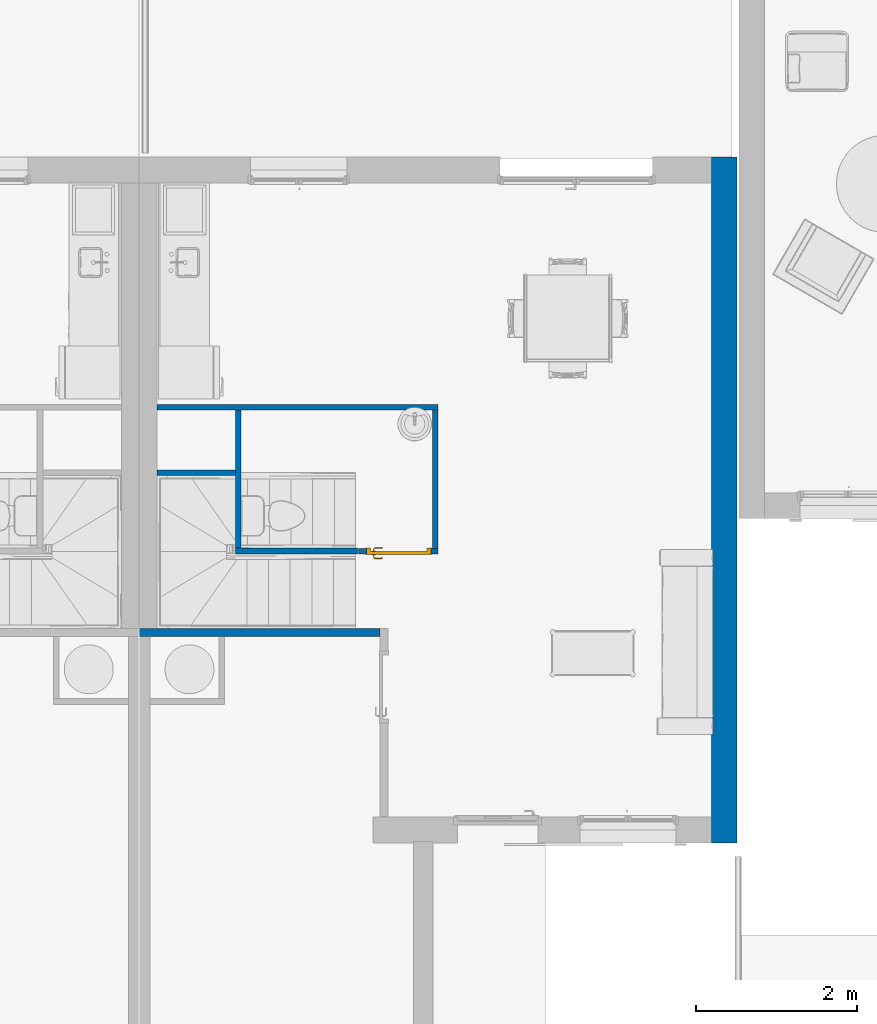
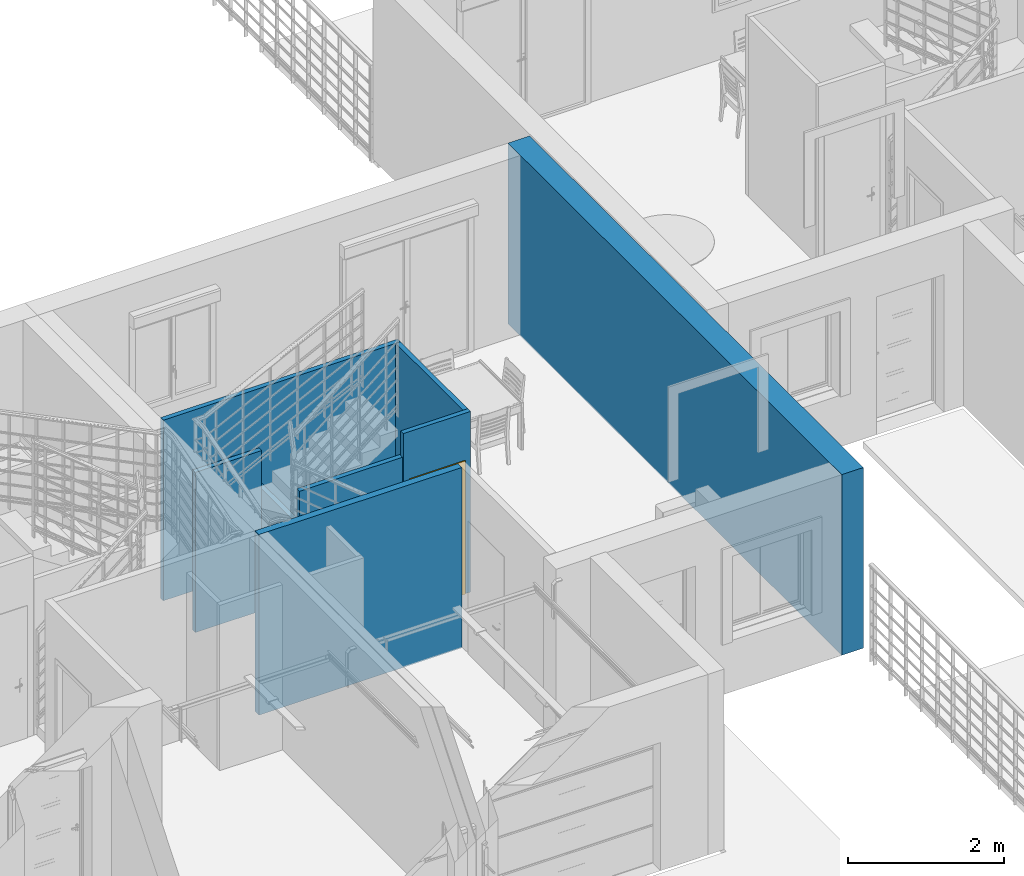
# One storey, part 11 of 30: 8 walls, 1 door, 1 opening.
"""IFC2X3 building model written with IfcOpenShell, lengths in metres."""

from ifc_helpers import new_model, entity, si_unit, converted_unit, derived_unit, direction, frame, frame_2d, origin, place, context, subcontext, project, spatial, rectangle, extrude, faceted_brep, source, transform, mapped, material, material_list, layer, layer_set, layer_usage, type_object, type_shapes, element, fill, save


model = new_model("IFC2X3")

# Units and contexts
model_context = context("Model", 3, precision=1e-05, world=origin(), true_north=direction((6.12303176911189e-17, 1.0)))
body_context = subcontext(model_context, "Body", "Model", "MODEL_VIEW")
ifc_project = project(units=[si_unit("LENGTHUNIT", "METRE"), si_unit("AREAUNIT", "SQUARE_METRE"), si_unit("VOLUMEUNIT", "CUBIC_METRE"), converted_unit("PLANEANGLEUNIT", "DEGREE", entity("IfcRatioMeasure", 0.0174532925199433), si_unit("PLANEANGLEUNIT", "RADIAN"), dimensions=[0, 0, 0, 0, 0, 0, 0]), si_unit("MASSUNIT", "GRAM", prefix="KILO"), derived_unit("MASSDENSITYUNIT", [(si_unit("MASSUNIT", "GRAM", prefix="KILO"), 1), (si_unit("LENGTHUNIT", "METRE"), -3)]), si_unit("TIMEUNIT", "SECOND"), si_unit("FREQUENCYUNIT", "HERTZ"), si_unit("THERMODYNAMICTEMPERATUREUNIT", "DEGREE_CELSIUS"), derived_unit("THERMALTRANSMITTANCEUNIT", [(si_unit("MASSUNIT", "GRAM", prefix="KILO"), 1), (si_unit("THERMODYNAMICTEMPERATUREUNIT", "KELVIN"), -1), (si_unit("TIMEUNIT", "SECOND"), -3)]), derived_unit("VOLUMETRICFLOWRATEUNIT", [(si_unit("LENGTHUNIT", "METRE"), 3), (si_unit("TIMEUNIT", "SECOND"), -1)]), si_unit("ELECTRICCURRENTUNIT", "AMPERE"), si_unit("ELECTRICVOLTAGEUNIT", "VOLT"), si_unit("POWERUNIT", "WATT"), si_unit("FORCEUNIT", "NEWTON", prefix="KILO"), si_unit("ILLUMINANCEUNIT", "LUX"), si_unit("LUMINOUSFLUXUNIT", "LUMEN"), si_unit("LUMINOUSINTENSITYUNIT", "CANDELA"), derived_unit("USERDEFINED", [(si_unit("MASSUNIT", "GRAM", prefix="KILO"), -1), (si_unit("LENGTHUNIT", "METRE"), -2), (si_unit("TIMEUNIT", "SECOND"), 3), (si_unit("LUMINOUSFLUXUNIT", "LUMEN"), 1)]), derived_unit("LINEARVELOCITYUNIT", [(si_unit("LENGTHUNIT", "METRE"), 1), (si_unit("TIMEUNIT", "SECOND"), -1)]), si_unit("PRESSUREUNIT", "PASCAL"), derived_unit("USERDEFINED", [(si_unit("LENGTHUNIT", "METRE"), -2), (si_unit("MASSUNIT", "GRAM", prefix="KILO"), 1), (si_unit("TIMEUNIT", "SECOND"), -2)])], contexts=[model_context])

# Site, building, storey
site_placement = place(None, origin())
site = spatial("IfcSite", under=ifc_project, at=site_placement, Name="Surface", CompositionType="ELEMENT")
building_placement = place(site_placement, origin())
building = spatial("IfcBuilding", under=site, at=building_placement, CompositionType="ELEMENT")
storey_placement = place(building_placement, origin())
storey = spatial("IfcBuildingStorey", under=building, at=storey_placement, Name="Plan des fondations  Maisons 1 et 2", CompositionType="ELEMENT", Elevation=0.0)

# Walls
ifc_material_1 = material(Name="Enduit blanc cassé2")
ifc_layer_1 = layer(ifc_material_1, 0.02)
ifc_material_2 = material(Name="Parpaing")
ifc_layer_2 = layer(ifc_material_2, 0.2)
ifc_material_3 = material(Name="Isolant")
ifc_layer_3 = layer(ifc_material_3, 0.1)
ifc_layer_set_1 = layer_set([ifc_layer_1, ifc_layer_2, ifc_layer_3], Name="Mur de base:Ext. Parpaing 20 + Isolant 10 enduit blanc cassé")
ifc_layer_usage_1 = layer_usage(ifc_layer_set_1, "AXIS2", "POSITIVE", -0.16)
wall_type_1 = type_object("IfcWallType", Name="Mur de base:Ext. Parpaing 20 + Isolant 10 enduit blanc cassé", PredefinedType="STANDARD", material=ifc_layer_set_1)
wall_1_placement = place(storey_placement, frame((76.122889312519, 79.8877566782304, 0.0), z_axis=(0.0, 0.0, 1.0), x_axis=(0.0, 1.0, 0.0)))
element("IfcWallStandardCase", 1, at=wall_1_placement, inside=storey, type_object=wall_type_1, material=ifc_layer_usage_1, Name="Mur de base:Ext. Parpaing 20 + Isolant 10 enduit blanc cassé", ObjectType="Mur de base:Ext. Parpaing 20 + Isolant 10 enduit blanc cassé", context=body_context, shape_type="SweptSolid", body=[
    extrude(rectangle(XDim=8.54, YDim=0.319999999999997, at=frame_2d((4.27, 9.85322934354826e-16), x_axis=(-1.0, 0.0))), origin(), (0.0, 0.0, 1.0), 2.82),
])
ifc_material_4 = material(Name="Peinture - Blanc")
ifc_layer_4 = layer(ifc_material_4, 0.1)
ifc_layer_set_2 = layer_set([ifc_layer_4], Name="Mur de base:Int.  Platre 100 mm en blanc 2")
ifc_layer_usage_2 = layer_usage(ifc_layer_set_2, "AXIS2", "NEGATIVE", 0.05)
wall_type_2 = type_object("IfcWallType", Name="Mur de base:Int.  Platre 100 mm en blanc 2", PredefinedType="STANDARD", material=ifc_layer_set_2)
wall_2_placement = place(storey_placement, frame((71.8346263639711, 82.5077566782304, 0.0), z_axis=(0.0, 0.0, 1.0), x_axis=(-1.0, 0.0, 0.0)))
element("IfcWallStandardCase", 2, at=wall_2_placement, inside=storey, type_object=wall_type_2, material=ifc_layer_usage_2, Name="Mur de base:Int.  Platre 100 mm en blanc 2", ObjectType="Mur de base:Int.  Platre 100 mm en blanc 2", context=body_context, shape_type="SweptSolid", body=[
    extrude(rectangle(XDim=2.99500000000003, YDim=0.100000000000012, at=frame_2d((1.49750000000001, 0.0), x_axis=(-1.0, 0.0))), origin(), (0.0, 0.0, 1.0), 2.82),
])
ifc_layer_5 = layer(ifc_material_4, 0.07)
ifc_layer_set_3 = layer_set([ifc_layer_5], Name="Mur de base:Int.  Platre 70 mm en blanc")
ifc_layer_usage_3 = layer_usage(ifc_layer_set_3, "AXIS2", "NEGATIVE", 0.035)
wall_type_3 = type_object("IfcWallType", Name="Mur de base:Int.  Platre 70 mm en blanc", PredefinedType="STANDARD", material=ifc_layer_set_3)
wall_3_placement = place(storey_placement, frame((69.0546263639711, 85.3127566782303, 0.0)))
element("IfcWallStandardCase", 3, at=wall_3_placement, inside=storey, type_object=wall_type_3, material=ifc_layer_usage_3, Name="Mur de base:Int.  Platre 70 mm en blanc", ObjectType="Mur de base:Int.  Platre 70 mm en blanc", context=body_context, shape_type="SweptSolid", body=[
    extrude(rectangle(XDim=3.50211659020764, YDim=0.0699999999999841, at=frame_2d((1.75105829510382, 7.45931094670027e-16), x_axis=(-1.0, 0.0))), origin(), (0.0, 0.0, 1.0), 2.82),
])
ifc_layer_usage_4 = layer_usage(ifc_layer_set_3, "AXIS2", "NEGATIVE", 0.035)
wall_4_placement = place(storey_placement, frame((72.5217429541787, 83.5546279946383, 0.0), z_axis=(0.0, 0.0, 1.0), x_axis=(0.0, 1.0, 0.0)))
element("IfcWallStandardCase", 4, at=wall_4_placement, inside=storey, type_object=wall_type_3, material=ifc_layer_usage_4, Name="Mur de base:Int.  Platre 70 mm en blanc", ObjectType="Mur de base:Int.  Platre 70 mm en blanc", context=body_context, shape_type="SweptSolid", body=[
    extrude(rectangle(XDim=1.72312868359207, YDim=0.0700000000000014, at=frame_2d((0.861564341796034, 0.0), x_axis=(-1.0, 0.0))), origin(), (0.0, 0.0, 1.0), 2.82),
])
ifc_layer_usage_5 = layer_usage(ifc_layer_set_3, "AXIS2", "NEGATIVE", 0.035)
wall_5_placement = place(storey_placement, frame((70.0346263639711, 83.5227566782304, 0.0)))
element("IfcWallStandardCase", 5, at=wall_5_placement, inside=storey, type_object=wall_type_3, material=ifc_layer_usage_5, Name="Mur de base:Int.  Platre 70 mm en blanc", ObjectType="Mur de base:Int.  Platre 70 mm en blanc", context=body_context, shape_type="SweptSolid", body=[
    extrude(rectangle(XDim=1.52171659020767, YDim=0.0699999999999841, at=frame_2d((0.760858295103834, 3.60128593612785e-15), x_axis=(-1.0, 0.0))), origin(), (0.0, 0.0, 1.0), 2.45350535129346),
])
ifc_layer_usage_6 = layer_usage(ifc_layer_set_3, "AXIS2", "NEGATIVE", 0.035)
wall_6_placement = place(storey_placement, frame((70.0696263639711, 83.5577566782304, 0.0), z_axis=(0.0, 0.0, 1.0), x_axis=(0.0, 1.0, 0.0)))
element("IfcWallStandardCase", 6, at=wall_6_placement, inside=storey, type_object=wall_type_3, material=ifc_layer_usage_6, Name="Mur de base:Int.  Platre 70 mm en blanc", ObjectType="Mur de base:Int.  Platre 70 mm en blanc", context=body_context, shape_type="SweptSolid", body=[
    extrude(rectangle(XDim=1.71999999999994, YDim=0.0700000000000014, at=frame_2d((0.859999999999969, 0.0), x_axis=(-1.0, 0.0))), origin(), (0.0, 0.0, 1.0), 1.9),
])

# Wall, opening, door
ifc_layer_usage_7 = layer_usage(ifc_layer_set_3, "AXIS2", "NEGATIVE", 0.035)
wall_7_placement = place(storey_placement, frame((71.5663429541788, 83.5196279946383, 0.0)))
wall_7 = element("IfcWallStandardCase", 7, at=wall_7_placement, inside=storey, type_object=wall_type_3, material=ifc_layer_usage_7, Name="Mur de base:Int.  Platre 70 mm en blanc", ObjectType="Mur de base:Int.  Platre 70 mm en blanc", context=body_context, shape_type="SweptSolid", body=[
    extrude(rectangle(XDim=0.990399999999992, YDim=0.0699999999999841, at=frame_2d((0.495199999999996, 2.43208231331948e-15), x_axis=(-1.0, 0.0))), origin(), (0.0, 0.0, 1.0), 2.82),
])
opening_placement = place(wall_7_placement, frame((0.900399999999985, 0.035000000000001, 0.0)))
opening = element("IfcOpeningElement", 8, at=opening_placement, cuts=wall_7, Name="FR_Simple (R):73 x 204 - (70):1", ObjectType="Opening", context=body_context, shape_type="SweptSolid", body=[
    extrude(rectangle(XDim=2.075, YDim=0.799999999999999, at=frame_2d((1.0375, 0.4), x_axis=(1.0, 0.0))), frame((0.0, 0.0, 0.0), z_axis=(0.0, -1.0, 0.0), x_axis=(0.0, 0.0, 1.0)), (0.0, 0.0, 1.0), 0.07),
])
ifc_material_5 = material(Name="Poignée Porte")
ifc_material_6 = material(Name="Dormants Portes")
ifc_material_7 = material(Name="Panneaux Portes")
ifc_material_list_1 = material_list([ifc_material_5, ifc_material_6, ifc_material_7])
ifc_material_list_2 = material_list([ifc_material_5, ifc_material_6, ifc_material_7])
door_style = type_object("IfcDoorStyle", Name="73 x 204 - (70)", ConstructionType="NOTDEFINED", OperationType="SINGLE_SWING_LEFT", ParameterTakesPrecedence=False, Sizeable=False, material=ifc_material_list_2)
shared_shape = source(origin(), body_context, "Body", "Brep", [
    faceted_brep([(0.100352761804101, -0.0130000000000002, 0.766003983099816), (0.11, -0.0130000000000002, 0.770000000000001), (0.11, -0.0130000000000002, 0.980000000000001), (0.100352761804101, -0.0130000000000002, 0.983996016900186), (0.0900000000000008, -0.0130000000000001, 0.985358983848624), (0.0796472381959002, -0.0130000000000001, 0.983996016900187), (0.0700000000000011, -0.0130000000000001, 0.980000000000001), (0.0700000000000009, -0.0130000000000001, 0.770000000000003), (0.0796472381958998, -0.0130000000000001, 0.766003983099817), (0.0900000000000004, -0.0130000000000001, 0.764641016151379), (0.100352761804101, -0.00800000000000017, 0.983996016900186), (0.11, -0.00800000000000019, 0.980000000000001), (0.11, -0.00800000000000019, 0.770000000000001), (0.100352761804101, -0.00800000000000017, 0.766003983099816), (0.0900000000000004, -0.00800000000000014, 0.764641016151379), (0.0796472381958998, -0.0080000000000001, 0.766003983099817), (0.0700000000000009, -0.00800000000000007, 0.770000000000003), (0.0700000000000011, -0.00800000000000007, 0.980000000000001), (0.0796472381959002, -0.0080000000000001, 0.983996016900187), (0.0900000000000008, -0.00800000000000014, 0.985358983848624)], [[[0, 1, 2, 3, 4, 5, 6, 7, 8, 9]], [[10, 11, 12, 13, 14, 15, 16, 17, 18, 19]], [[16, 15, 8, 7]], [[8, 15, 14, 9]], [[14, 13, 0, 9]], [[13, 12, 1, 0]], [[2, 1, 12, 11]], [[11, 10, 3, 2]], [[3, 10, 19, 4]], [[19, 18, 5, 4]], [[18, 17, 6, 5]], [[7, 6, 17, 16]]]),
    faceted_brep([(0.100352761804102, 0.0319999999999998, 0.766003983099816), (0.110000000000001, 0.0319999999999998, 0.770000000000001), (0.11, 0.0319999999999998, 0.980000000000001), (0.100352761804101, 0.0319999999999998, 0.983996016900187), (0.0900000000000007, 0.0319999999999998, 0.985358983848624), (0.0796472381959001, 0.0319999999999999, 0.983996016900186), (0.0700000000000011, 0.0319999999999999, 0.980000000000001), (0.0700000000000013, 0.0319999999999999, 0.770000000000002), (0.0796472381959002, 0.0319999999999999, 0.766003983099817), (0.0900000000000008, 0.0319999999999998, 0.764641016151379), (0.100352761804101, 0.0369999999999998, 0.983996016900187), (0.11, 0.0369999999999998, 0.980000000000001), (0.110000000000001, 0.0369999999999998, 0.770000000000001), (0.100352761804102, 0.0369999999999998, 0.766003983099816), (0.0900000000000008, 0.0369999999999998, 0.764641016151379), (0.0796472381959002, 0.0369999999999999, 0.766003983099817), (0.0700000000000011, 0.0369999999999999, 0.770000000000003), (0.0700000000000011, 0.0369999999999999, 0.980000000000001), (0.0796472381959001, 0.0369999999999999, 0.983996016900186), (0.0900000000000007, 0.0369999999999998, 0.985358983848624)], [[[0, 1, 2, 3, 4, 5, 6, 7, 8, 9]], [[10, 11, 12, 13, 14, 15, 16, 17, 18, 19]], [[11, 10, 3, 2]], [[3, 10, 19, 4]], [[19, 18, 5, 4]], [[18, 17, 6, 5]], [[7, 6, 17, 16]], [[16, 15, 8, 7]], [[8, 15, 14, 9]], [[14, 13, 0, 9]], [[13, 12, 1, 0]], [[2, 1, 12, 11]]]),
    faceted_brep([(0.0879747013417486, -0.0130000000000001, 0.907780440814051), (0.0920252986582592, -0.0130000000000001, 0.907780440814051), (0.0960000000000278, -0.0130000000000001, 0.906999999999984), (0.0960000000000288, -0.0130000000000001, 0.893000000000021), (0.0920252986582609, -0.0130000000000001, 0.89221955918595), (0.0879747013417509, -0.0130000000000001, 0.892219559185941), (0.0839999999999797, -0.0130000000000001, 0.892999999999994), (0.0839999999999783, -0.0130000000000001, 0.90699999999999), (0.083999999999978, -0.0406509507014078, 0.906999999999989), (0.0879747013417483, -0.0390045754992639, 0.907780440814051), (0.104023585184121, -0.0550534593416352, 0.907780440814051), (0.105701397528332, -0.0510028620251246, 0.907780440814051), (0.0920252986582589, -0.0373267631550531, 0.907780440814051), (0.198521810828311, -0.0473891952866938, 0.90778044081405), (0.195657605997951, -0.0445249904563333, 0.90778044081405), (0.18917973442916, -0.0510028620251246, 0.90778044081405), (0.190857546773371, -0.0550534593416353, 0.90778044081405), (0.0960000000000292, -0.0356803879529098, 0.90699999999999), (0.0960000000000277, -0.0356803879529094, 0.893000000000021), (0.0920252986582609, -0.0373267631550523, 0.89221955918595), (0.105701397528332, -0.0510028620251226, 0.89221955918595), (0.104023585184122, -0.0550534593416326, 0.89221955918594), (0.0879747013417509, -0.0390045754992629, 0.89221955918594), (0.195657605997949, -0.044524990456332, 0.89221955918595), (0.19852181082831, -0.0473891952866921, 0.89221955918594), (0.19085754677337, -0.0550534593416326, 0.89221955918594), (0.18917973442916, -0.0510028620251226, 0.89221955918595), (0.0839999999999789, -0.0406509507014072, 0.892999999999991), (0.102377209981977, -0.0590281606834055, 0.906999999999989), (0.107347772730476, -0.0470281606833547, 0.90699999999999), (0.107347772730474, -0.0470281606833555, 0.893000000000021), (0.102377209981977, -0.0590281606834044, 0.892999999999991), (0.142307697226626, -0.0590281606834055, 0.906999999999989), (0.147440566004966, -0.053182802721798, 0.907878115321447), (0.192503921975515, -0.0590281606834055, 0.906999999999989), (0.147440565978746, -0.0470281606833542, 0.90699999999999), (0.187533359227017, -0.0470281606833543, 0.906999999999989), (0.187533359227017, -0.0470281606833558, 0.89300000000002), (0.147440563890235, -0.0470281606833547, 0.893000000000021), (0.147440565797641, -0.0531828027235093, 0.892121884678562), (0.192503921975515, -0.0590281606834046, 0.892999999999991), (0.152573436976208, -0.0590281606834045, 0.892999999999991), (0.192847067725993, -0.0417144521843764, 0.906999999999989), (0.201332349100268, -0.0501997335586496, 0.906999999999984), (0.201332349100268, -0.05019973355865, 0.892999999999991), (0.192847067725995, -0.0417144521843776, 0.893000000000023)], [[[0, 1, 2, 3, 4, 5, 6, 7]], [[8, 9, 0, 7]], [[9, 10, 11, 12, 1, 0]], [[13, 14, 15, 16]], [[12, 17, 2, 1]], [[3, 2, 17, 18]], [[18, 19, 4, 3]], [[19, 20, 21, 22, 5, 4]], [[23, 24, 25, 26]], [[22, 27, 6, 5]], [[7, 6, 27, 8]], [[28, 10, 9, 8]], [[11, 29, 17, 12]], [[18, 17, 29, 30]], [[30, 20, 19, 18]], [[21, 31, 27, 22]], [[8, 27, 31, 28]], [[32, 33, 10]], [[33, 32, 16]], [[10, 28, 32]], [[34, 16, 32]], [[33, 35, 11]], [[11, 10, 33]], [[15, 35, 33]], [[29, 11, 35]], [[35, 15, 36]], [[15, 33, 16]], [[30, 29, 35, 36, 37, 38]], [[20, 38, 39]], [[25, 40, 41]], [[31, 21, 41]], [[41, 21, 39]], [[39, 38, 26]], [[26, 25, 39]], [[38, 20, 30]], [[37, 26, 38]], [[20, 39, 21]], [[41, 39, 25]], [[28, 31, 41, 40, 34, 32]], [[42, 14, 13, 43, 44, 24, 23, 45]], [[43, 13, 16, 34]], [[14, 42, 36, 15]], [[37, 36, 42, 45]], [[45, 23, 26, 37]], [[24, 44, 40, 25]], [[34, 40, 44, 43]]]),
    faceted_brep([(0.0879747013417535, 0.0369999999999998, 0.892219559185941), (0.092025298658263, 0.0369999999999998, 0.892219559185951), (0.0960000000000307, 0.0369999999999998, 0.893000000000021), (0.096000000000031, 0.0369999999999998, 0.90699999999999), (0.0920252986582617, 0.0369999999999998, 0.907780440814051), (0.0879747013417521, 0.0369999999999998, 0.907780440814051), (0.0839999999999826, 0.0369999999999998, 0.90699999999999), (0.0839999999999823, 0.0369999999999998, 0.892999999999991), (0.0960000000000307, 0.0594852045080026, 0.893000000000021), (0.0960000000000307, 0.0594852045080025, 0.90699999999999), (0.092025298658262, 0.0611315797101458, 0.907780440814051), (0.105838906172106, 0.0749451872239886, 0.907780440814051), (0.104161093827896, 0.0789957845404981, 0.907780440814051), (0.0879747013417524, 0.0628093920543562, 0.907780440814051), (0.195684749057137, 0.0684673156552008, 0.907780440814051), (0.198548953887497, 0.071331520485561, 0.907780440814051), (0.190884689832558, 0.0789957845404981, 0.907780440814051), (0.189206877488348, 0.0749451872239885, 0.907780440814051), (0.0839999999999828, 0.0644557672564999, 0.90699999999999), (0.0839999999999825, 0.0644557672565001, 0.892999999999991), (0.0879747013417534, 0.0628093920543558, 0.892219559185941), (0.104161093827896, 0.0789957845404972, 0.892219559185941), (0.105838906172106, 0.0749451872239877, 0.892219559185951), (0.0920252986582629, 0.0611315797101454, 0.892219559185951), (0.198548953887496, 0.07133152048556, 0.89221955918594), (0.195684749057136, 0.0684673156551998, 0.89221955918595), (0.189206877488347, 0.0749451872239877, 0.89221955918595), (0.190884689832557, 0.0789957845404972, 0.89221955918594), (0.107485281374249, 0.0709704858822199, 0.893000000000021), (0.107485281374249, 0.0709704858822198, 0.90699999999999), (0.102514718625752, 0.0829704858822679, 0.90699999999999), (0.102514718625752, 0.0829704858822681, 0.892999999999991), (0.147522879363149, 0.0709704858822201, 0.89300000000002), (0.187560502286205, 0.0709704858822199, 0.89300000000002), (0.187560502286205, 0.0709704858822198, 0.90699999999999), (0.147522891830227, 0.0709704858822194, 0.90699999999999), (0.147522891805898, 0.0771249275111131, 0.907878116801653), (0.192531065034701, 0.0829704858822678, 0.90699999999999), (0.152600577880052, 0.0829704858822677, 0.90699999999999), (0.192531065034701, 0.082970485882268, 0.892999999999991), (0.142445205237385, 0.0829704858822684, 0.892999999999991), (0.147522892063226, 0.0771249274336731, 0.892121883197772), (0.192874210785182, 0.0656567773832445, 0.89300000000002), (0.201359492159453, 0.0741420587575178, 0.892999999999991), (0.201359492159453, 0.0741420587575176, 0.90699999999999), (0.192874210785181, 0.0656567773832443, 0.90699999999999)], [[[0, 1, 2, 3, 4, 5, 6, 7]], [[3, 2, 8, 9]], [[9, 10, 4, 3]], [[10, 11, 12, 13, 5, 4]], [[14, 15, 16, 17]], [[13, 18, 6, 5]], [[7, 6, 18, 19]], [[19, 20, 0, 7]], [[20, 21, 22, 23, 1, 0]], [[24, 25, 26, 27]], [[23, 8, 2, 1]], [[9, 8, 28, 29]], [[29, 11, 10, 9]], [[12, 30, 18, 13]], [[19, 18, 30, 31]], [[31, 21, 20, 19]], [[22, 28, 8, 23]], [[28, 32, 33, 34, 35, 29]], [[11, 35, 36]], [[16, 37, 38]], [[30, 12, 38]], [[38, 12, 36]], [[36, 35, 17]], [[17, 16, 36]], [[35, 11, 29]], [[34, 17, 35]], [[11, 36, 12]], [[38, 36, 16]], [[31, 30, 38, 37, 39, 40]], [[40, 41, 21]], [[41, 40, 27]], [[21, 31, 40]], [[39, 27, 40]], [[41, 32, 22]], [[22, 21, 41]], [[26, 32, 41]], [[28, 22, 32]], [[32, 26, 33]], [[26, 41, 27]], [[42, 25, 24, 43, 44, 15, 14, 45]], [[34, 33, 42, 45]], [[45, 14, 17, 34]], [[15, 44, 37, 16]], [[39, 37, 44, 43]], [[43, 24, 27, 39]], [[25, 42, 33, 26]]]),
    faceted_brep([(0.0, 0.0, 0.0), (0.0, 0.0700000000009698, 0.0), (-0.00999999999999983, 0.0700000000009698, 0.0), (-0.00999999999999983, 0.0780000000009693, 0.0), (0.0499999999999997, 0.0780000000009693, 0.0), (0.0499999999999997, 0.032, 0.0), (0.0350000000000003, 0.032, 0.0), (0.0350000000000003, -0.00799999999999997, 0.0), (-0.00999999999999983, -0.00799999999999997, 0.0), (-0.00999999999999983, 0.0, 0.0), (0.0, 0.0, 2.075), (0.0, 0.0700000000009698, 2.075), (0.799999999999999, 0.0700000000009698, 2.075), (0.799999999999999, 0.0700000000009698, 0.0), (0.809999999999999, 0.0700000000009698, 0.0), (0.809999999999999, 0.0700000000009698, 2.085), (-0.00999999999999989, 0.0700000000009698, 2.085), (-0.00999999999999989, 0.0780000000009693, 2.085), (0.809999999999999, 0.0780000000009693, 2.085), (0.809999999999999, 0.0780000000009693, 0.0), (0.75, 0.0780000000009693, 0.0), (0.75, 0.0780000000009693, 2.025), (0.0499999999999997, 0.0780000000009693, 2.025), (0.0499999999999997, 0.032, 2.025), (0.75, 0.032, 2.025), (0.75, 0.032, 0.0), (0.764999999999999, 0.032, 0.0), (0.764999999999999, 0.032, 2.04), (0.0350000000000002, 0.032, 2.04), (0.0350000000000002, -0.00799999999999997, 2.04), (0.764999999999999, -0.00799999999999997, 2.04), (0.764999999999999, -0.00799999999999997, 0.0), (0.809999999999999, -0.00799999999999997, 0.0), (0.809999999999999, -0.00799999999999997, 2.085), (-0.00999999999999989, -0.00799999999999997, 2.085), (-0.00999999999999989, 0.0, 2.085), (0.809999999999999, 0.0, 2.085), (0.809999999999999, 0.0, 0.0), (0.799999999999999, 0.0, 0.0), (0.799999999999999, 0.0, 2.075)], [[[0, 1, 2, 3, 4, 5, 6, 7, 8, 9]], [[1, 0, 10, 11]], [[2, 1, 11, 12, 13, 14, 15, 16]], [[3, 2, 16, 17]], [[4, 3, 17, 18, 19, 20, 21, 22]], [[5, 4, 22, 23]], [[6, 5, 23, 24, 25, 26, 27, 28]], [[7, 6, 28, 29]], [[8, 7, 29, 30, 31, 32, 33, 34]], [[9, 8, 34, 35]], [[0, 9, 35, 36, 37, 38, 39, 10]], [[11, 10, 39, 12]], [[17, 16, 15, 18]], [[23, 22, 21, 24]], [[29, 28, 27, 30]], [[35, 34, 33, 36]], [[38, 37, 32, 31, 26, 25, 20, 19, 14, 13]], [[12, 39, 38, 13]], [[18, 15, 14, 19]], [[24, 21, 20, 25]], [[30, 27, 26, 31]], [[36, 33, 32, 37]]]),
    faceted_brep([(0.0350000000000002, -0.00799999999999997, 2.04), (0.0350000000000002, -0.00799999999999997, 0.0), (0.764999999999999, -0.00799999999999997, 0.0), (0.764999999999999, -0.00799999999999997, 2.04), (0.0350000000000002, 0.032, 2.04), (0.764999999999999, 0.032, 2.04), (0.764999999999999, 0.032, 0.0), (0.0350000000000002, 0.032, 0.0)], [[[0, 1, 2, 3]], [[4, 5, 6, 7]], [[1, 0, 4, 7]], [[2, 1, 7, 6]], [[3, 2, 6, 5]], [[0, 3, 5, 4]]]),
])
type_shapes(door_style, [shared_shape])
door_placement = place(opening_placement, frame((-0.800000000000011, -0.0699999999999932, 0.0)))
door = element("IfcDoor", 9, at=door_placement, inside=storey, type_object=door_style, material=ifc_material_list_1, Name="FR_Simple (R):73 x 204 - (70)", ObjectType="FR_Simple (R):73 x 204 - (70)", OverallHeight=2.075, OverallWidth=0.8, context=body_context, shape_type="MappedRepresentation", body=[
    mapped(shared_shape, transform((0.0, 0.0, 0.0), scale=1.0)),
])
fill(opening, door)

# Wall
ifc_layer_usage_8 = layer_usage(ifc_layer_set_3, "AXIS2", "NEGATIVE", 0.035)
wall_8_placement = place(storey_placement, frame((70.0346263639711, 84.4948372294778, 0.0), z_axis=(0.0, 0.0, 1.0), x_axis=(-1.0, 0.0, 0.0)))
element("IfcWallStandardCase", 10, at=wall_8_placement, inside=storey, type_object=wall_type_3, material=ifc_layer_usage_8, Name="Mur de base:Int.  Platre 70 mm en blanc", ObjectType="Mur de base:Int.  Platre 70 mm en blanc", context=body_context, shape_type="SweptSolid", body=[
    extrude(rectangle(XDim=0.979999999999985, YDim=0.0699999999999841, at=frame_2d((0.489999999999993, 0.0), x_axis=(-1.0, 0.0))), origin(), (0.0, 0.0, 1.0), 2.5),
])

save(model, "model.ifc")
